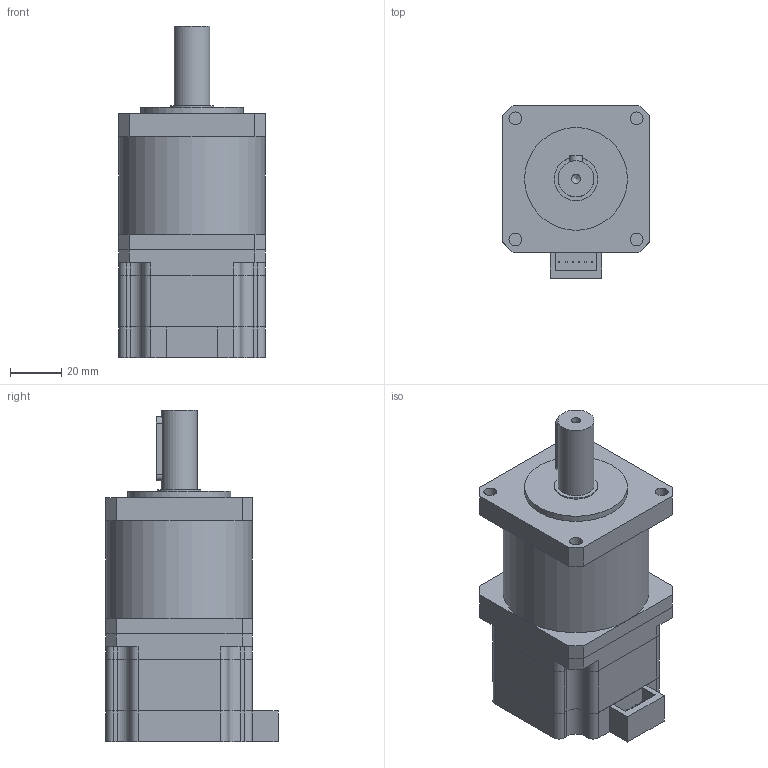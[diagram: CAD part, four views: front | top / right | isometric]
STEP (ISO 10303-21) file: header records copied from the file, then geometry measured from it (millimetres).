
FILE_DESCRIPTION(/* description */ (''),/* implementation_level */ '2;1');
FILE_NAME(/* name */ '57PG010-D42-0442.stp',/* time_stamp */ '2018-08-28T10:01:17+08:00',/* author */ (''),/* organization */ (''),/* preprocessor_version */ 'ST-DEVELOPER v11',/* originating_system */ 'SIEMENS UGS NX 6.0',/* authorisation */ '');
FILE_SCHEMA (('CONFIG_CONTROL_DESIGN'));
Length unit declared in the file: millimetre
Products named in the file (1): 57PG005-D42-0442
Bounding box: 57 x 67 x 129 mm (x, y, z)
Volume: 277826.1 mm3; surface area: 48441.1 mm2
Topology: 5 solids, 5 shells, 170 faces, 440 edges, 290 vertices
Faces by surface type: plane 122, cylinder 47, cone 1
Full cylindrical faces by diameter (mm): 3.5 x1, 5 x4, 14 x1, 17 x1, 40 x1, 57 x1
Entity records: 5194 total; most frequent: CARTESIAN_POINT 888, DIRECTION 870, ORIENTED_EDGE 856, EDGE_CURVE 428, LINE 328, VECTOR 328, VERTEX_POINT 289, AXIS2_PLACEMENT_3D 271
